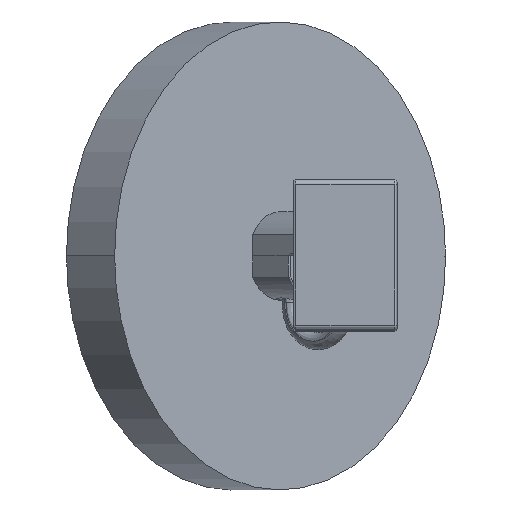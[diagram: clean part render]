
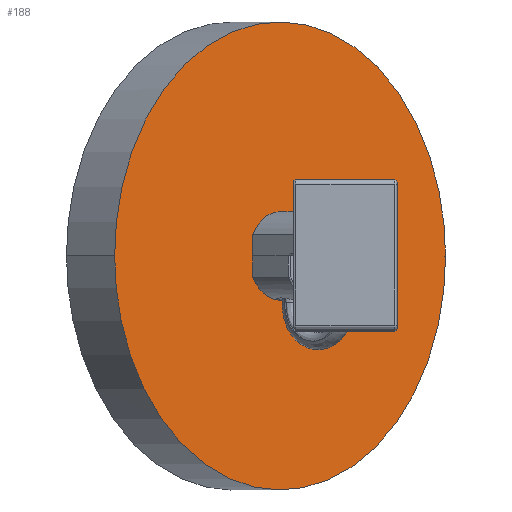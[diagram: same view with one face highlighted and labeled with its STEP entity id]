
A CAD part, top view. The second image highlights one B-rep face of the part: STEP entity #188.
In plain terms, the highlighted planar face has unit normal (0.707, 0, 0.707).
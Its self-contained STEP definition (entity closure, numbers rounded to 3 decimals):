
#188=ADVANCED_FACE('',(#647,#521),#5868,.T.);
#521=FACE_BOUND('',#1044,.T.);
#647=FACE_OUTER_BOUND('',#1043,.T.);
#1043=EDGE_LOOP('',(#1723,#1724));
#1044=EDGE_LOOP('',(#1725,#1726,#1727,#1728,#1729,#1730));
#1723=ORIENTED_EDGE('',*,*,#3933,.F.);
#1724=ORIENTED_EDGE('',*,*,#3408,.F.);
#1725=ORIENTED_EDGE('',*,*,#3397,.T.);
#1726=ORIENTED_EDGE('',*,*,#3406,.F.);
#1727=ORIENTED_EDGE('',*,*,#3405,.F.);
#1728=ORIENTED_EDGE('',*,*,#3401,.T.);
#1729=ORIENTED_EDGE('',*,*,#3403,.F.);
#1730=ORIENTED_EDGE('',*,*,#3407,.F.);
#3397=EDGE_CURVE('',#5179,#5180,#4803,.T.);
#3401=EDGE_CURVE('',#5181,#5182,#4804,.T.);
#3403=EDGE_CURVE('',#5183,#5182,#4805,.T.);
#3405=EDGE_CURVE('',#5181,#5184,#4806,.T.);
#3406=EDGE_CURVE('',#5184,#5180,#4807,.T.);
#3407=EDGE_CURVE('',#5179,#5183,#4808,.T.);
#3408=EDGE_CURVE('',#5185,#5540,#4809,.T.);
#3933=EDGE_CURVE('',#5540,#5185,#4968,.T.);
#4803=(
BOUNDED_CURVE()
B_SPLINE_CURVE(2,(#13958,#13959,#13960,#13961,#13962),.UNSPECIFIED.,.F.,
 .F.)
B_SPLINE_CURVE_WITH_KNOTS((3,2,3),(2.077,3.142,4.206),
 .UNSPECIFIED.)
CURVE()
GEOMETRIC_REPRESENTATION_ITEM()
RATIONAL_B_SPLINE_CURVE((1.,0.862,1.,0.862,1.))
REPRESENTATION_ITEM('')
);
#4804=(
BOUNDED_CURVE()
B_SPLINE_CURVE(2,(#13969,#13970,#13971,#13972,#13973),.UNSPECIFIED.,.F.,
 .F.)
B_SPLINE_CURVE_WITH_KNOTS((3,2,3),(2.077,3.142,4.206),
 .UNSPECIFIED.)
CURVE()
GEOMETRIC_REPRESENTATION_ITEM()
RATIONAL_B_SPLINE_CURVE((1.,0.862,1.,0.862,1.))
REPRESENTATION_ITEM('')
);
#4805=(
BOUNDED_CURVE()
B_SPLINE_CURVE(2,(#13976,#13977,#13978),.UNSPECIFIED.,.F.,.F.)
B_SPLINE_CURVE_WITH_KNOTS((3,3),(12.516,16.657),
 .UNSPECIFIED.)
CURVE()
GEOMETRIC_REPRESENTATION_ITEM()
RATIONAL_B_SPLINE_CURVE((1.,1.,1.))
REPRESENTATION_ITEM('')
);
#4806=(
BOUNDED_CURVE()
B_SPLINE_CURVE(2,(#13981,#13982,#13983),.UNSPECIFIED.,.F.,.F.)
B_SPLINE_CURVE_WITH_KNOTS((3,3),(18.787,22.928),
 .UNSPECIFIED.)
CURVE()
GEOMETRIC_REPRESENTATION_ITEM()
RATIONAL_B_SPLINE_CURVE((1.,1.,1.))
REPRESENTATION_ITEM('')
);
#4807=(
BOUNDED_CURVE()
B_SPLINE_CURVE(2,(#13984,#13985,#13986),.UNSPECIFIED.,.F.,.F.)
B_SPLINE_CURVE_WITH_KNOTS((3,3),(22.928,27.089),
 .UNSPECIFIED.)
CURVE()
GEOMETRIC_REPRESENTATION_ITEM()
RATIONAL_B_SPLINE_CURVE((1.,1.,1.))
REPRESENTATION_ITEM('')
);
#4808=(
BOUNDED_CURVE()
B_SPLINE_CURVE(2,(#13987,#13988,#13989),.UNSPECIFIED.,.F.,.F.)
B_SPLINE_CURVE_WITH_KNOTS((3,3),(8.355,12.516),
 .UNSPECIFIED.)
CURVE()
GEOMETRIC_REPRESENTATION_ITEM()
RATIONAL_B_SPLINE_CURVE((1.,1.,1.))
REPRESENTATION_ITEM('')
);
#4809=(
BOUNDED_CURVE()
B_SPLINE_CURVE(2,(#13990,#13991,#13992,#13993,#13994),.UNSPECIFIED.,.F.,
 .F.)
B_SPLINE_CURVE_WITH_KNOTS((3,2,3),(-424.115,-353.429,
-282.743),.UNSPECIFIED.)
CURVE()
GEOMETRIC_REPRESENTATION_ITEM()
RATIONAL_B_SPLINE_CURVE((1.,0.707,1.,0.707,1.))
REPRESENTATION_ITEM('')
);
#4968=(
BOUNDED_CURVE()
B_SPLINE_CURVE(2,(#15995,#15996,#15997,#15998,#15999),.UNSPECIFIED.,.F.,
 .F.)
B_SPLINE_CURVE_WITH_KNOTS((3,2,3),(-282.743,-212.058,
-141.372),.UNSPECIFIED.)
CURVE()
GEOMETRIC_REPRESENTATION_ITEM()
RATIONAL_B_SPLINE_CURVE((1.,0.707,1.,0.707,1.))
REPRESENTATION_ITEM('')
);
#5179=VERTEX_POINT('',#13017);
#5180=VERTEX_POINT('',#13018);
#5181=VERTEX_POINT('',#13019);
#5182=VERTEX_POINT('',#13020);
#5183=VERTEX_POINT('',#13021);
#5184=VERTEX_POINT('',#13022);
#5185=VERTEX_POINT('',#13023);
#5540=VERTEX_POINT('',#13378);
#5868=PLANE('',#6093);
#6093=AXIS2_PLACEMENT_3D('',#9271,#6328,$);
#6328=DIRECTION('',(0.707,0.,0.707));
#9271=CARTESIAN_POINT('',(27.297,-56.25,-73.906));
#13017=CARTESIAN_POINT('',(-7.221,-4.123,-39.387));
#13018=CARTESIAN_POINT('',(-17.736,-4.116,-28.872));
#13019=CARTESIAN_POINT('',(-17.733,4.123,-28.875));
#13020=CARTESIAN_POINT('',(-7.219,4.116,-39.39));
#13021=CARTESIAN_POINT('',(-7.17,-0.004,-39.44));
#13022=CARTESIAN_POINT('',(-17.787,0.004,-28.824));
#13023=CARTESIAN_POINT('',(-44.297,0.,-2.311));
#13378=CARTESIAN_POINT('',(19.342,0.,-65.951));
#13958=CARTESIAN_POINT('',(-7.221,-4.123,-39.387));
#13959=CARTESIAN_POINT('',(-8.939,-8.502,-37.669));
#13960=CARTESIAN_POINT('',(-12.48,-8.5,-34.128));
#13961=CARTESIAN_POINT('',(-16.021,-8.498,-30.587));
#13962=CARTESIAN_POINT('',(-17.736,-4.116,-28.872));
#13969=CARTESIAN_POINT('',(-17.733,4.123,-28.875));
#13970=CARTESIAN_POINT('',(-16.016,8.502,-30.593));
#13971=CARTESIAN_POINT('',(-12.475,8.5,-34.134));
#13972=CARTESIAN_POINT('',(-8.933,8.498,-37.675));
#13973=CARTESIAN_POINT('',(-7.219,4.116,-39.39));
#13976=CARTESIAN_POINT('',(-7.17,-0.004,-39.44));
#13977=CARTESIAN_POINT('',(-7.194,2.056,-39.415));
#13978=CARTESIAN_POINT('',(-7.219,4.116,-39.39));
#13981=CARTESIAN_POINT('',(-17.733,4.123,-28.875));
#13982=CARTESIAN_POINT('',(-17.76,2.063,-28.849));
#13983=CARTESIAN_POINT('',(-17.787,0.004,-28.824));
#13984=CARTESIAN_POINT('',(-17.787,0.004,-28.824));
#13985=CARTESIAN_POINT('',(-17.761,-2.056,-28.848));
#13986=CARTESIAN_POINT('',(-17.736,-4.116,-28.872));
#13987=CARTESIAN_POINT('',(-7.221,-4.123,-39.387));
#13988=CARTESIAN_POINT('',(-7.196,-2.063,-39.414));
#13989=CARTESIAN_POINT('',(-7.17,-0.004,-39.44));
#13990=CARTESIAN_POINT('',(-44.297,0.,-2.311));
#13991=CARTESIAN_POINT('',(-44.297,45.,-2.311));
#13992=CARTESIAN_POINT('',(-12.478,45.,-34.131));
#13993=CARTESIAN_POINT('',(19.342,45.,-65.951));
#13994=CARTESIAN_POINT('',(19.342,0.,-65.951));
#15995=CARTESIAN_POINT('',(19.342,0.,-65.951));
#15996=CARTESIAN_POINT('',(19.342,-45.,-65.951));
#15997=CARTESIAN_POINT('',(-12.478,-45.,-34.131));
#15998=CARTESIAN_POINT('',(-44.297,-45.,-2.311));
#15999=CARTESIAN_POINT('',(-44.297,0.,-2.311));
